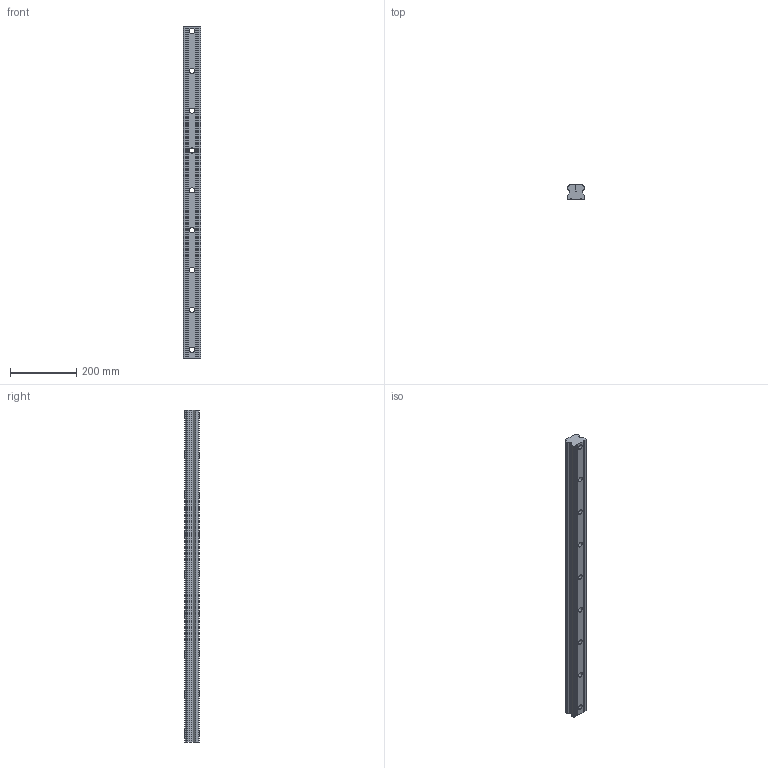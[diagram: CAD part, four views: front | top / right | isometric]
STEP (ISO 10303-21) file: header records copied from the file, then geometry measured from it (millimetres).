
FILE_DESCRIPTION (( 'STEP AP214' ), '1' );
FILE_NAME ('2.0007 Lineaarijohde HGR55R-C.STEP', '2024-04-22T07:41:40', ( '' ), ( '' ), 'SwSTEP 2.0', 'SolidWorks 2024', '' );
FILE_SCHEMA (( 'AUTOMOTIVE_DESIGN' ));
Length unit declared in the file: millimetre
Products named in the file (1): 2.0007 Lineaarijohde HGR55R-C
Bounding box: 53 x 44 x 1000 mm (x, y, z)
Volume: 1915190.3 mm3; surface area: 226523.7 mm2
Topology: 1 solids, 1 shells, 79 faces, 204 edges, 136 vertices
Faces by surface type: cylinder 40, plane 39
Entity records: 2497 total; most frequent: DIRECTION 444, CARTESIAN_POINT 420, ORIENTED_EDGE 408, EDGE_CURVE 204, AXIS2_PLACEMENT_3D 160, VERTEX_POINT 136, LINE 124, VECTOR 124
